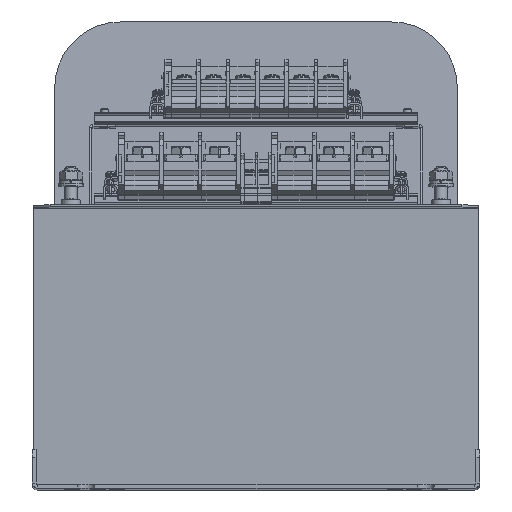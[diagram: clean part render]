
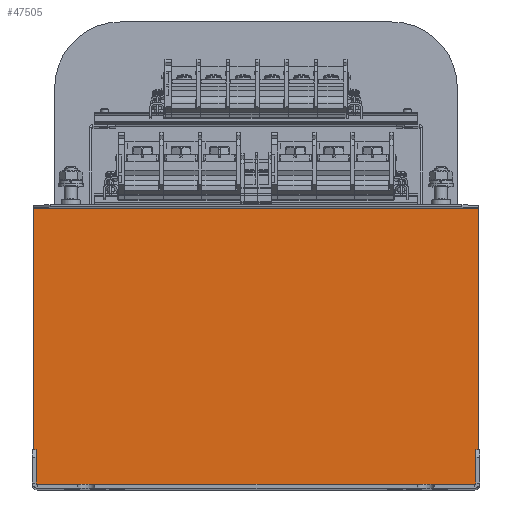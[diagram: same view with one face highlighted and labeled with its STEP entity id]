
A CAD part, top view. The second image highlights one B-rep face of the part: STEP entity #47505.
In plain terms, the highlighted planar face has unit normal (0, 0, 1).
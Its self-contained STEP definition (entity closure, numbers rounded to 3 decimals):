
#47312=CARTESIAN_POINT('',(-144.5,178.988,2.5));
#47313=VERTEX_POINT('',#47312);
#47320=CARTESIAN_POINT('',(144.5,178.988,2.5));
#47321=VERTEX_POINT('',#47320);
#47322=CARTESIAN_POINT('',(144.5,178.988,2.5));
#47323=DIRECTION('',(-1.0,0.0,0.0));
#47324=VECTOR('',#47323,289.0);
#47325=LINE('',#47322,#47324);
#47326=EDGE_CURVE('',#47321,#47313,#47325,.T.);
#47370=CARTESIAN_POINT('',(144.5,0.,2.5));
#47371=VERTEX_POINT('',#47370);
#47372=CARTESIAN_POINT('',(144.5,178.988,2.5));
#47373=DIRECTION('',(0.0,-1.0,0.0));
#47374=VECTOR('',#47373,178.988);
#47375=LINE('',#47372,#47374);
#47376=EDGE_CURVE('',#47321,#47371,#47375,.T.);
#47411=CARTESIAN_POINT('',(-144.5,0.,2.5));
#47412=VERTEX_POINT('',#47411);
#47419=CARTESIAN_POINT('',(-144.5,0.,2.5));
#47420=DIRECTION('',(0.0,1.0,0.0));
#47421=VECTOR('',#47420,178.988);
#47422=LINE('',#47419,#47421);
#47423=EDGE_CURVE('',#47412,#47313,#47422,.T.);
#47484=CARTESIAN_POINT('',(-144.5,0.,2.5));
#47485=DIRECTION('',(1.0,0.0,0.0));
#47486=VECTOR('',#47485,289.0);
#47487=LINE('',#47484,#47486);
#47488=EDGE_CURVE('',#47412,#47371,#47487,.T.);
#47494=CARTESIAN_POINT('',(0.0,180.49,2.5));
#47495=DIRECTION('',(0.0,0.0,1.0));
#47496=DIRECTION('',(1.0,0.0,0.0));
#47497=AXIS2_PLACEMENT_3D('',#47494,#47495,#47496);
#47498=PLANE('',#47497);
#47499=ORIENTED_EDGE('',*,*,#47326,.T.);
#47500=ORIENTED_EDGE('',*,*,#47423,.F.);
#47501=ORIENTED_EDGE('',*,*,#47488,.T.);
#47502=ORIENTED_EDGE('',*,*,#47376,.F.);
#47503=EDGE_LOOP('',(#47499,#47500,#47501,#47502));
#47504=FACE_OUTER_BOUND('',#47503,.T.);
#47505=ADVANCED_FACE('',(#47504),#47498,.T.);
